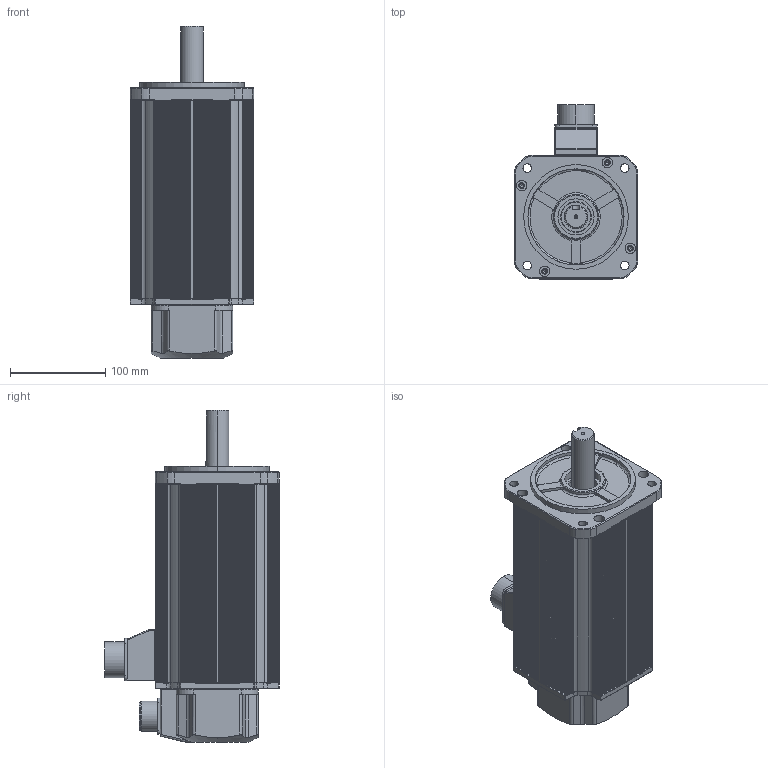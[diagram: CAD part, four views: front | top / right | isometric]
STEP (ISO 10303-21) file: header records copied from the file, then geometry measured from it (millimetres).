
FILE_DESCRIPTION (( 'STEP AP214' ), '1' );
FILE_NAME ('KAND-30B¡à1B2.STEP', '2026-09-12T02:44:21', ( '' ), ( '' ), 'SwSTEP 2.0', 'SolidWorks 2023', '' );
FILE_SCHEMA (( 'AUTOMOTIVE_DESIGN' ));
Length unit declared in the file: millimetre
Products named in the file (11): □130 BRACKET_BR; □130-209mm; MS3102A 20-29P; 10050908 CONNECTOR BOX_MS22 or MS24; □130 FLANGE; 10050523 GASKET_돌출형; MS3102A 24_표준; 1005052200 ENCODER COVER; KAND-30B□1B2; 10050907 RUBBER SEAL_MS22 or MS24; Ø24-KEY8X51
Assembly tree (10 placements, depth 2):
  KAND-30B□1B2
    □130-209mm
    □130 FLANGE
    □130 BRACKET_BR
    1005052200 ENCODER COVER
    10050523 GASKET_돌출형
    MS3102A 20-29P
    Ø24-KEY8X51
    10050907 RUBBER SEAL_MS22 or MS24
    10050908 CONNECTOR BOX_MS22 or MS24
    MS3102A 24_표준
Bounding box: 130 x 183.62 x 349.2 mm (x, y, z)
Volume: 838649.8 mm3; surface area: 463782 mm2
Topology: 10 solids, 10 shells, 2426 faces, 6741 edges, 4359 vertices
Faces by surface type: plane 1142, cylinder 956, torus 181, bspline 83, cone 54, sphere 10
Entity records: 81697 total; most frequent: CARTESIAN_POINT 18369, ORIENTED_EDGE 13358, DIRECTION 13328, EDGE_CURVE 6679, AXIS2_PLACEMENT_3D 4682, VERTEX_POINT 4359, LINE 3964, VECTOR 3964
